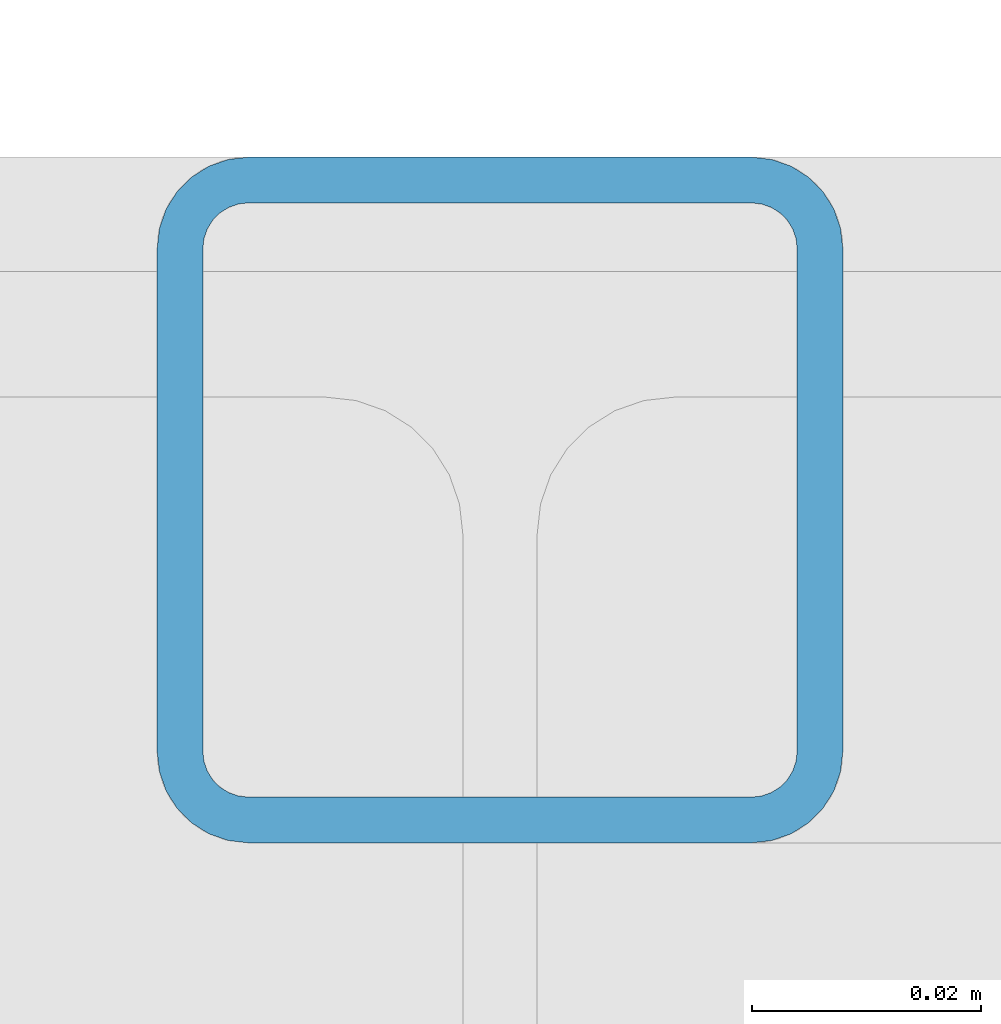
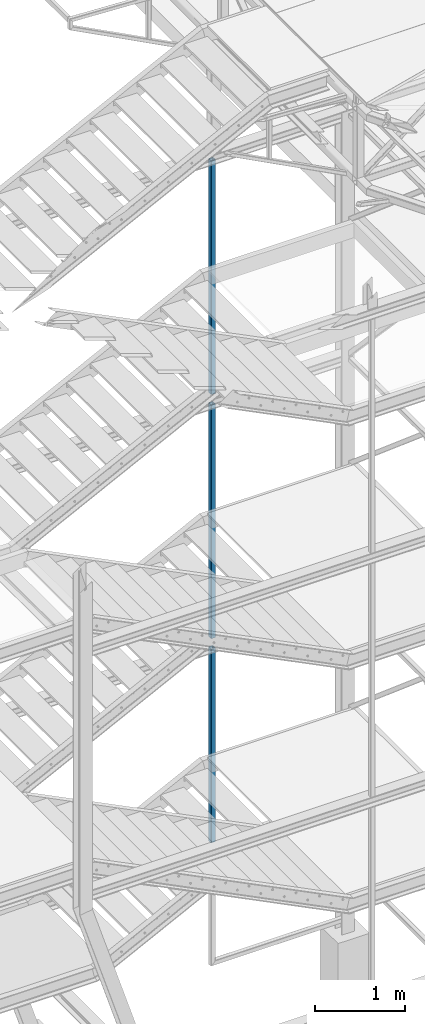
# One storey, part 8 of 132: 3 beams, 3 elements without a shape of their own.
"""IFC2X3 building model written with IfcOpenShell, lengths in millimetres."""

from ifc_helpers import new_model, si_unit, frame, origin_with_axes, origin_2d_with_axis, place, context, subcontext, project, spatial, hollow_rectangle, extrude, material, type_object, element, aggregate, save


model = new_model("IFC2X3")

# Units and contexts
model_context = context("Model", 3, precision=1e-05, world=origin_with_axes())
body_context = subcontext(model_context, "Body", "Model", "MODEL_VIEW")
ifc_project = project(units=[si_unit("LENGTHUNIT", "METRE", prefix="MILLI"), si_unit("AREAUNIT", "SQUARE_METRE"), si_unit("VOLUMEUNIT", "CUBIC_METRE"), si_unit("MASSUNIT", "GRAM", prefix="KILO"), si_unit("TIMEUNIT", "SECOND"), si_unit("PLANEANGLEUNIT", "RADIAN"), si_unit("SOLIDANGLEUNIT", "STERADIAN"), si_unit("THERMODYNAMICTEMPERATUREUNIT", "DEGREE_CELSIUS"), si_unit("LUMINOUSINTENSITYUNIT", "LUMEN")], contexts=[model_context])

# Site, building, storey
site_placement = place(None, origin_with_axes())
site = spatial("IfcSite", under=ifc_project, at=site_placement, Name="Budowa", CompositionType="ELEMENT")
building_placement = place(site_placement, origin_with_axes())
building = spatial("IfcBuilding", under=site, at=building_placement, Name="Undefined", CompositionType="ELEMENT")
storey_placement = place(building_placement, origin_with_axes())
storey = spatial("IfcBuildingStorey", under=building, at=storey_placement, Name="Undefined", CompositionType="ELEMENT", Elevation=0.0)

# Assembly, beam
assembly_1_placement = place(storey_placement, origin_with_axes())
assembly_1 = element("IfcElementAssembly", 1, at=assembly_1_placement, inside=storey, Name="Steel Assembly", AssemblyPlace="NOTDEFINED", PredefinedType="RIGID_FRAME")
ifc_material = material(Name="STEEL/S235")
beam_type = type_object("IfcBeamType", Name="SHS60*4", PredefinedType="NOTDEFINED")
beam_1_placement = place(assembly_1_placement, frame((-620.00000008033, 11170.000000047, 5400.0), z_axis=(-1.0, 0.0, 0.0), x_axis=(0.0, 0.0, -1.0)))
beam_1 = element("IfcBeam", 2, at=beam_1_placement, type_object=beam_type, material=ifc_material, Name="BEAM", ObjectType="SHS60*4", context=body_context, shape_type="SweptSolid", body=[
    extrude(hollow_rectangle(XDim=60.0, YDim=60.0, WallThickness=4.0, InnerFilletRadius=4.0, OuterFilletRadius=8.0, at=origin_2d_with_axis()), frame((2620.0, 0.0, 0.0), z_axis=(-1.0, 0.0, 0.0), x_axis=(0.0, -1.0, 0.0)), (0.0, 0.0, 1.0), 2620.0),
])
aggregate(assembly_1, [beam_1])

assembly_2_placement = place(storey_placement, origin_with_axes())
assembly_2 = element("IfcElementAssembly", 3, at=assembly_2_placement, inside=storey, Name="Steel Assembly", AssemblyPlace="NOTDEFINED", PredefinedType="RIGID_FRAME")
beam_2_placement = place(assembly_2_placement, frame((-620.00000008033, 11170.000000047, 12000.0), z_axis=(-1.0, 0.0, 0.0), x_axis=(0.0, 0.0, -1.0)))
beam_2 = element("IfcBeam", 4, at=beam_2_placement, type_object=beam_type, material=ifc_material, Name="BEAM", ObjectType="SHS60*4", context=body_context, shape_type="SweptSolid", body=[
    extrude(hollow_rectangle(XDim=60.0, YDim=60.0, WallThickness=4.0, InnerFilletRadius=4.0, OuterFilletRadius=8.0, at=origin_2d_with_axis()), frame((3160.0, 0.0, 0.0), z_axis=(-1.0, 0.0, 0.0), x_axis=(0.0, -1.0, 0.0)), (0.0, 0.0, 1.0), 3160.0),
])
aggregate(assembly_2, [beam_2])

assembly_3_placement = place(storey_placement, origin_with_axes())
assembly_3 = element("IfcElementAssembly", 5, at=assembly_3_placement, inside=storey, Name="Steel Assembly", AssemblyPlace="NOTDEFINED", PredefinedType="RIGID_FRAME")
beam_3_placement = place(assembly_3_placement, frame((-620.00000008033, 11170.000000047, 8700.0), z_axis=(-1.0, 0.0, 0.0), x_axis=(0.0, 0.0, -1.0)))
beam_3 = element("IfcBeam", 6, at=beam_3_placement, type_object=beam_type, material=ifc_material, Name="BEAM", ObjectType="SHS60*4", context=body_context, shape_type="SweptSolid", body=[
    extrude(hollow_rectangle(XDim=60.0, YDim=60.0, WallThickness=4.0, InnerFilletRadius=4.0, OuterFilletRadius=8.0, at=origin_2d_with_axis()), frame((3160.0, 0.0, 0.0), z_axis=(-1.0, 0.0, 0.0), x_axis=(0.0, -1.0, 0.0)), (0.0, 0.0, 1.0), 3160.0),
])
aggregate(assembly_3, [beam_3])

save(model, "model.ifc")
